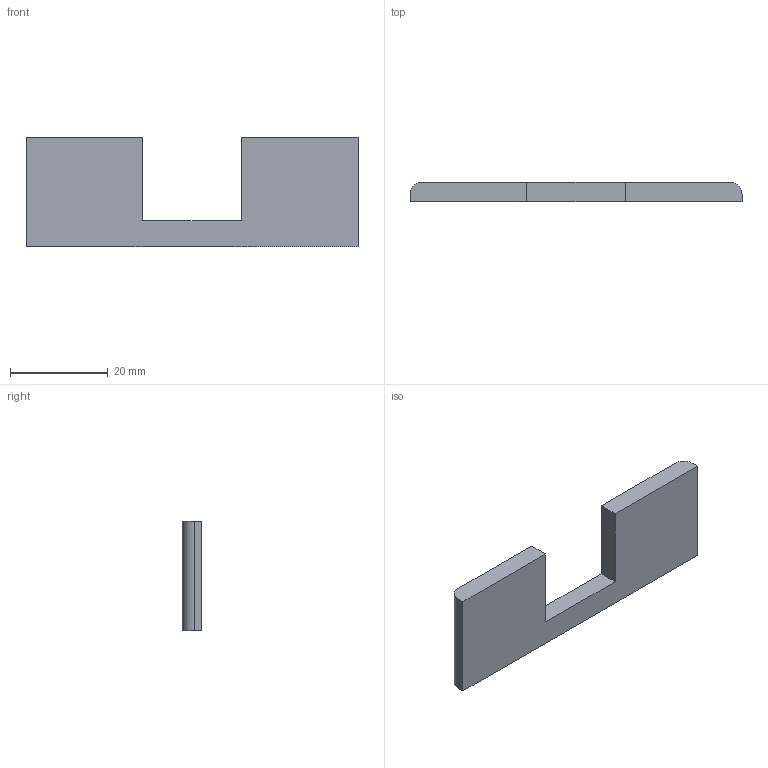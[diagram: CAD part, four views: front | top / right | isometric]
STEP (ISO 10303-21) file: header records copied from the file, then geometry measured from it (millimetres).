
FILE_DESCRIPTION (( 'STEP AP214' ), '1' );
FILE_NAME ('Abdeckkappe f. Stahlgehaeuse 136548.STEP', '2010-11-16T08:35:34', ( 'grass' ), ( '' ), 'SwSTEP 2.0', 'SolidWorks 2010', '' );
FILE_SCHEMA (( 'AUTOMOTIVE_DESIGN' ));
Length unit declared in the file: millimetre
Products named in the file (1): Abdeckkappe f. Stahlgehaeuse 136548
Bounding box: 68 x 4 x 22.4 mm (x, y, z)
Volume: 4655.1 mm3; surface area: 3163.7 mm2
Topology: 1 solids, 1 shells, 12 faces, 30 edges, 20 vertices
Faces by surface type: plane 10, cylinder 2
Entity records: 392 total; most frequent: CARTESIAN_POINT 63, ORIENTED_EDGE 60, DIRECTION 60, EDGE_CURVE 30, VECTOR 26, LINE 26, VERTEX_POINT 20, AXIS2_PLACEMENT_3D 17
